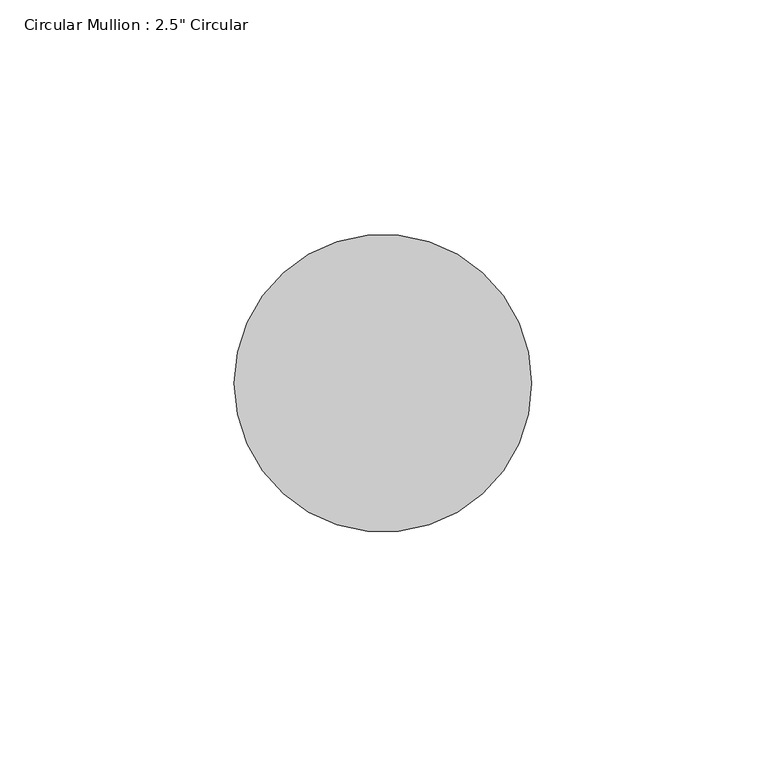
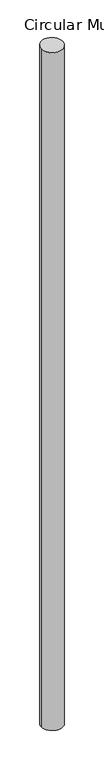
"""IFC4 building model written with IfcOpenShell, lengths in millimetres: member geometry."""

from ifc_helpers import new_model, si_unit, frame, origin, place, context, project, spatial, circle_curve, ellipse_curve, source, transform, mapped, element, save
from ifc_brep_helpers import plane_surface, cylinder_surface, advanced_brep


def member_ccb99b07(model_context):
    return source(origin(), model_context, "Body", "AdvancedBrep", [
        advanced_brep(
        [(0.0, 0.0, -2103.3994051), (-63.5, 0.0, -2103.3994051), (-63.5, 0.0, -0.939304), (0.0, 0.0, 0.0)],
        [
            (0, 1, circle_curve(frame((-31.75, 0.0, -2103.3994051), z_axis=(0.0, 0.0, -1.0), x_axis=(1.0, 0.0, 0.0)), 31.75)),
            (1, 0, circle_curve(frame((-31.75, 0.0, -2103.3994051), z_axis=(0.0, 0.0, -1.0), x_axis=(1.0, 0.0, 0.0)), 31.75)),
            (2, 3, ellipse_curve(frame((-31.75, 0.0, -0.469652), z_axis=(0.014777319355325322, 0.042321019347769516, -0.9989947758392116), x_axis=(0.3293226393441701, 0.9431527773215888, 0.044826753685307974)), 31.781948, 31.75)),
            (3, 0),
            (1, 2),
            (3, 2, ellipse_curve(frame((-31.75, 0.0, -0.469652), z_axis=(0.014777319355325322, 0.042321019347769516, -0.9989947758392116), x_axis=(0.3293226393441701, 0.9431527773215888, 0.044826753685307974)), 31.781948, 31.75)),
        ],
        [
            plane_surface(frame((0.0, -63.5, -2103.3994051), z_axis=(0.0, 0.0, -1.0), x_axis=(-1.0, 0.0, 0.0))),
            cylinder_surface(frame((-31.75, 0.0, 0.0), z_axis=(0.0, 0.0, 1.0), x_axis=(1.0, 0.0, 0.0)), 31.75),
            plane_surface(frame((287.7622321, -100.4785439, 0.0), z_axis=(-0.014777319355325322, -0.042321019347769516, 0.9989947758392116), x_axis=(-0.32932263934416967, -0.9431527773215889, -0.04482675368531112))),
        ],
        [
            (0, [[1, 2]]),
            (1, [[3, 4, -2, 5]]),
            (1, [[6, -5, -1, -4]]),
            (2, [[-3, -6]]),
        ],
    ),
    ])


if __name__ == "__main__":
    model = new_model("IFC4")
    model_context = context("Model", 3, world=origin())
    ifc_project = project(units=[si_unit("LENGTHUNIT", "METRE", prefix="MILLI")], contexts=[model_context])
    site = spatial("IfcSite", under=ifc_project)
    building = spatial("IfcBuilding", under=site)
    placement = place(None, origin())
    member_shape = member_ccb99b07(model_context)
    element("IfcMember", 1, ObjectType="Circular Mullion : 2.5\" Circular", at=placement, inside=building, context=model_context, shape_type="MappedRepresentation", body=[
        mapped(member_shape, transform((0.0, 0.0, 0.0), x_axis=(1.0, 0.0, 0.0), y_axis=(0.0, 1.0, 0.0), z_axis=(0.0, 0.0, 1.0))),
    ])
    save(model, "model.ifc")
